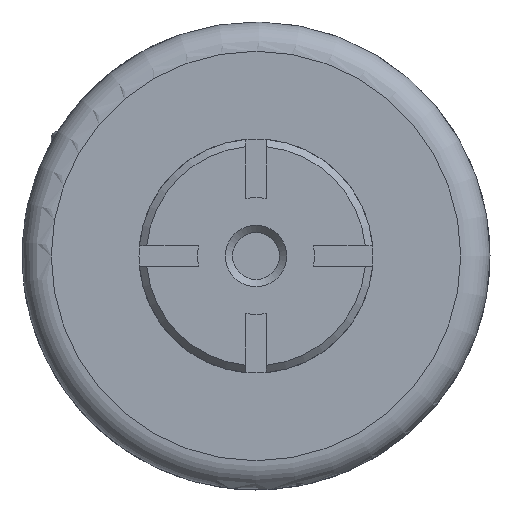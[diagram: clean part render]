
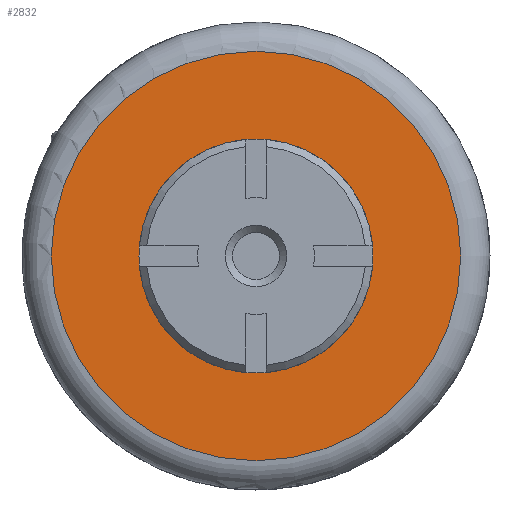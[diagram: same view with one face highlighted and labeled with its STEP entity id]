
A CAD part, left-side view. The second image highlights one B-rep face of the part: STEP entity #2832.
In plain terms, the highlighted planar face has unit normal (-1, 0, 0).
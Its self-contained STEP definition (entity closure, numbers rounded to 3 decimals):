
#98=PLANE('',#3158);
#255=CIRCLE('',#3110,14.);
#282=CIRCLE('',#3159,8.);
#992=ORIENTED_EDGE('',*,*,#1583,.T.);
#993=ORIENTED_EDGE('',*,*,#1524,.T.);
#1524=EDGE_CURVE('',#1868,#1868,#255,.T.);
#1583=EDGE_CURVE('',#1907,#1907,#282,.T.);
#1868=VERTEX_POINT('',#4946);
#1907=VERTEX_POINT('',#5102);
#2373=EDGE_LOOP('',(#992));
#2374=EDGE_LOOP('',(#993));
#2594=FACE_BOUND('',#2373,.T.);
#2595=FACE_BOUND('',#2374,.T.);
#2832=ADVANCED_FACE('',(#2594,#2595),#98,.T.);
#3110=AXIS2_PLACEMENT_3D('',#4945,#3742,#3743);
#3158=AXIS2_PLACEMENT_3D('',#5100,#3858,#3859);
#3159=AXIS2_PLACEMENT_3D('',#5101,#3860,#3861);
#3742=DIRECTION('',(-1.,0.,0.));
#3743=DIRECTION('',(0.,-1.,0.));
#3858=DIRECTION('',(-1.,0.,0.));
#3859=DIRECTION('',(0.,-1.,0.));
#3860=DIRECTION('',(1.,0.,0.));
#3861=DIRECTION('',(0.,1.,0.));
#4945=CARTESIAN_POINT('',(-7.5,0.,0.));
#4946=CARTESIAN_POINT('',(-7.5,-14.,0.));
#5100=CARTESIAN_POINT('',(-7.5,16.,0.));
#5101=CARTESIAN_POINT('',(-7.5,0.,0.));
#5102=CARTESIAN_POINT('',(-7.5,8.,0.));
